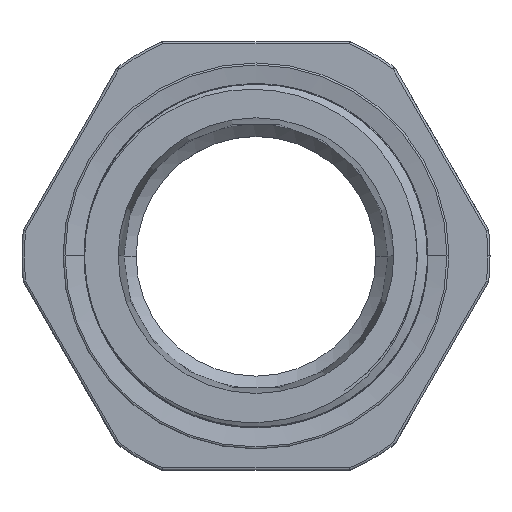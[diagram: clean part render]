
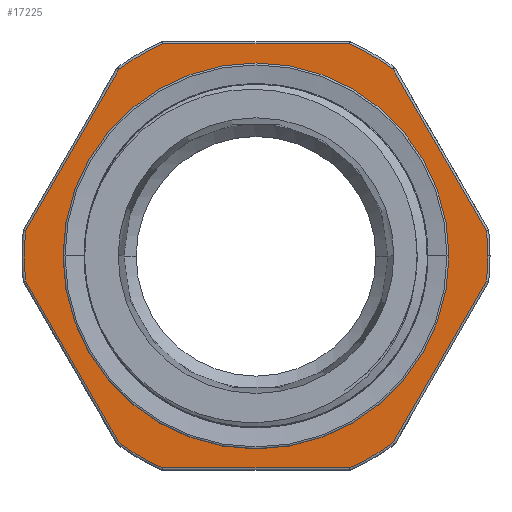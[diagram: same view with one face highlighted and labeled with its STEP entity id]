
A CAD part, top view. The second image highlights one B-rep face of the part: STEP entity #17225.
In plain terms, the highlighted planar face has unit normal (0, 0, 1).
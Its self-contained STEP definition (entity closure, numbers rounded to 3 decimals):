
#263 = CARTESIAN_POINT ( 'NONE',  ( -14.396, -19.67, 6.366 ) ) ;
#960 = VERTEX_POINT ( 'NONE', #17383 ) ;
#1081 = CARTESIAN_POINT ( 'NONE',  ( 24.231, -2.642, 6.366 ) ) ;
#1579 = AXIS2_PLACEMENT_3D ( 'NONE', #7685, #18219, #22902 ) ;
#1680 = VECTOR ( 'NONE', #10761, 1000. ) ;
#2495 = LINE ( 'NONE', #13043, #27391 ) ;
#2796 = CARTESIAN_POINT ( 'NONE',  ( -9.83, 22.296, 6.366 ) ) ;
#2921 = CIRCLE ( 'NONE', #22207, 24.372 ) ;
#3192 = CARTESIAN_POINT ( 'NONE',  ( 0.002, -0.005, 6.366 ) ) ;
#3390 = LINE ( 'NONE', #13930, #16826 ) ;
#3530 = CARTESIAN_POINT ( 'NONE',  ( 24.374, -0.005, 6.366 ) ) ;
#3587 = EDGE_CURVE ( 'NONE', #24744, #4098, #13940, .T. ) ;
#3776 = CARTESIAN_POINT ( 'NONE',  ( -24.228, -2.642, 6.366 ) ) ;
#3924 = CARTESIAN_POINT ( 'NONE',  ( 0.002, -0.005, 6.366 ) ) ;
#4098 = VERTEX_POINT ( 'NONE', #24411 ) ;
#4277 = DIRECTION ( 'NONE',  ( 1., 0., 0. ) ) ;
#4472 = CARTESIAN_POINT ( 'NONE',  ( 14.399, -19.67, 6.366 ) ) ;
#4615 = EDGE_CURVE ( 'NONE', #18489, #11795, #18845, .T. ) ;
#4734 = ORIENTED_EDGE ( 'NONE', *, *, #24794, .T. ) ;
#5092 = EDGE_CURVE ( 'NONE', #16254, #25249, #10015, .T. ) ;
#5435 = EDGE_CURVE ( 'NONE', #25249, #6548, #2921, .T. ) ;
#5997 = DIRECTION ( 'NONE',  ( 0., 0., 1. ) ) ;
#6548 = VERTEX_POINT ( 'NONE', #30361 ) ;
#6571 = CARTESIAN_POINT ( 'NONE',  ( 9.833, -22.307, 6.366 ) ) ;
#6606 = CARTESIAN_POINT ( 'NONE',  ( -24.253, 2.587, 6.366 ) ) ;
#6865 = LINE ( 'NONE', #17404, #19015 ) ;
#7685 = CARTESIAN_POINT ( 'NONE',  ( 0.002, -0.005, 6.366 ) ) ;
#8115 = CIRCLE ( 'NONE', #12546, 20.3 ) ;
#8602 = AXIS2_PLACEMENT_3D ( 'NONE', #3192, #24275, #21674 ) ;
#8607 = EDGE_CURVE ( 'NONE', #18390, #18489, #16483, .T. ) ;
#8713 = CARTESIAN_POINT ( 'NONE',  ( 0.002, -0.005, 6.366 ) ) ;
#8785 = ORIENTED_EDGE ( 'NONE', *, *, #11538, .T. ) ;
#9268 = DIRECTION ( 'NONE',  ( 1., 0., 0. ) ) ;
#9293 = DIRECTION ( 'NONE',  ( 0.5, 0.866, 0. ) ) ;
#9483 = CARTESIAN_POINT ( 'NONE',  ( 9.833, 22.296, 6.366 ) ) ;
#10015 = LINE ( 'NONE', #20534, #10673 ) ;
#10349 = AXIS2_PLACEMENT_3D ( 'NONE', #22993, #20734, #30947 ) ;
#10529 = PLANE ( 'NONE',  #28640 ) ;
#10673 = VECTOR ( 'NONE', #17435, 1000. ) ;
#10761 = DIRECTION ( 'NONE',  ( 0.5, -0.866, 0. ) ) ;
#10883 = ORIENTED_EDGE ( 'NONE', *, *, #17802, .F. ) ;
#10903 = ORIENTED_EDGE ( 'NONE', *, *, #5435, .T. ) ;
#10925 = ORIENTED_EDGE ( 'NONE', *, *, #4615, .T. ) ;
#11412 = EDGE_CURVE ( 'NONE', #11795, #29734, #20237, .T. ) ;
#11431 = CIRCLE ( 'NONE', #12557, 24.372 ) ;
#11538 = EDGE_CURVE ( 'NONE', #16313, #16254, #16957, .T. ) ;
#11795 = VERTEX_POINT ( 'NONE', #263 ) ;
#11954 = CARTESIAN_POINT ( 'NONE',  ( 0.002, -0.005, 6.366 ) ) ;
#11958 = EDGE_LOOP ( 'NONE', ( #4734, #18359, #17039, #15439, #8785, #19446, #10903, #31458, #18669, #10925, #21801, #26759, #18973 ) ) ;
#12546 = AXIS2_PLACEMENT_3D ( 'NONE', #32410, #24953, #19242 ) ;
#12557 = AXIS2_PLACEMENT_3D ( 'NONE', #25016, #14819, #4277 ) ;
#13043 = CARTESIAN_POINT ( 'NONE',  ( 14.374, 19.703, 6.366 ) ) ;
#13159 = VERTEX_POINT ( 'NONE', #6571 ) ;
#13586 = DIRECTION ( 'NONE',  ( 0., 0., 1. ) ) ;
#13796 = DIRECTION ( 'NONE',  ( 1., 0., 0. ) ) ;
#13930 = CARTESIAN_POINT ( 'NONE',  ( 9.884, -22.307, 6.366 ) ) ;
#13940 = CIRCLE ( 'NONE', #28867, 20.3 ) ;
#14479 = CARTESIAN_POINT ( 'NONE',  ( 20.301, -0.005, 6.366 ) ) ;
#14736 = CARTESIAN_POINT ( 'NONE',  ( -9.83, -22.307, 6.366 ) ) ;
#14819 = DIRECTION ( 'NONE',  ( 0., 0., 1. ) ) ;
#15439 = ORIENTED_EDGE ( 'NONE', *, *, #28041, .T. ) ;
#16254 = VERTEX_POINT ( 'NONE', #9483 ) ;
#16313 = VERTEX_POINT ( 'NONE', #20180 ) ;
#16483 = CIRCLE ( 'NONE', #1579, 24.372 ) ;
#16491 = VERTEX_POINT ( 'NONE', #4472 ) ;
#16826 = VECTOR ( 'NONE', #24467, 1000. ) ;
#16957 = CIRCLE ( 'NONE', #10349, 24.372 ) ;
#17039 = ORIENTED_EDGE ( 'NONE', *, *, #19082, .T. ) ;
#17225 = ADVANCED_FACE ( 'NONE', ( #31943, #34219 ), #10529, .T. ) ;
#17383 = CARTESIAN_POINT ( 'NONE',  ( 24.231, 2.631, 6.366 ) ) ;
#17404 = CARTESIAN_POINT ( 'NONE',  ( 24.256, -2.598, 6.366 ) ) ;
#17435 = DIRECTION ( 'NONE',  ( -1., 0., 0. ) ) ;
#17646 = CARTESIAN_POINT ( 'NONE',  ( 0.002, -0.005, 6.366 ) ) ;
#17802 = EDGE_CURVE ( 'NONE', #4098, #24744, #8115, .T. ) ;
#17848 = VERTEX_POINT ( 'NONE', #3530 ) ;
#18219 = DIRECTION ( 'NONE',  ( 0., 0., 1. ) ) ;
#18329 = CARTESIAN_POINT ( 'NONE',  ( -14.371, -19.714, 6.366 ) ) ;
#18359 = ORIENTED_EDGE ( 'NONE', *, *, #28622, .T. ) ;
#18390 = VERTEX_POINT ( 'NONE', #30386 ) ;
#18489 = VERTEX_POINT ( 'NONE', #3776 ) ;
#18669 = ORIENTED_EDGE ( 'NONE', *, *, #8607, .T. ) ;
#18845 = LINE ( 'NONE', #18329, #1680 ) ;
#18973 = ORIENTED_EDGE ( 'NONE', *, *, #27046, .T. ) ;
#19015 = VECTOR ( 'NONE', #9293, 1000. ) ;
#19082 = EDGE_CURVE ( 'NONE', #17848, #960, #26200, .T. ) ;
#19242 = DIRECTION ( 'NONE',  ( 1., 0., 0. ) ) ;
#19446 = ORIENTED_EDGE ( 'NONE', *, *, #5092, .T. ) ;
#20058 = DIRECTION ( 'NONE',  ( 1., 0., 0. ) ) ;
#20180 = CARTESIAN_POINT ( 'NONE',  ( 14.399, 19.66, 6.366 ) ) ;
#20230 = VERTEX_POINT ( 'NONE', #1081 ) ;
#20237 = CIRCLE ( 'NONE', #26864, 24.372 ) ;
#20534 = CARTESIAN_POINT ( 'NONE',  ( -9.881, 22.296, 6.366 ) ) ;
#20734 = DIRECTION ( 'NONE',  ( 0., 0., 1. ) ) ;
#21674 = DIRECTION ( 'NONE',  ( 1., 0., 0. ) ) ;
#21801 = ORIENTED_EDGE ( 'NONE', *, *, #11412, .T. ) ;
#21935 = DIRECTION ( 'NONE',  ( -0.5, 0.866, 0. ) ) ;
#22207 = AXIS2_PLACEMENT_3D ( 'NONE', #3924, #32464, #13796 ) ;
#22902 = DIRECTION ( 'NONE',  ( 1., 0., 0. ) ) ;
#22993 = CARTESIAN_POINT ( 'NONE',  ( 0.002, -0.005, 6.366 ) ) ;
#24275 = DIRECTION ( 'NONE',  ( 0., 0., 1. ) ) ;
#24411 = CARTESIAN_POINT ( 'NONE',  ( -20.298, -0.005, 6.366 ) ) ;
#24467 = DIRECTION ( 'NONE',  ( 1., 0., 0. ) ) ;
#24744 = VERTEX_POINT ( 'NONE', #14479 ) ;
#24794 = EDGE_CURVE ( 'NONE', #16491, #20230, #6865, .T. ) ;
#24935 = LINE ( 'NONE', #6606, #27467 ) ;
#24953 = DIRECTION ( 'NONE',  ( 0., 0., 1. ) ) ;
#24961 = EDGE_CURVE ( 'NONE', #29734, #13159, #3390, .T. ) ;
#25016 = CARTESIAN_POINT ( 'NONE',  ( 0.002, -0.005, 6.366 ) ) ;
#25249 = VERTEX_POINT ( 'NONE', #2796 ) ;
#26200 = CIRCLE ( 'NONE', #33405, 24.372 ) ;
#26759 = ORIENTED_EDGE ( 'NONE', *, *, #24961, .T. ) ;
#26864 = AXIS2_PLACEMENT_3D ( 'NONE', #11954, #32696, #33045 ) ;
#27046 = EDGE_CURVE ( 'NONE', #13159, #16491, #31248, .T. ) ;
#27391 = VECTOR ( 'NONE', #21935, 1000. ) ;
#27467 = VECTOR ( 'NONE', #27688, 1000. ) ;
#27688 = DIRECTION ( 'NONE',  ( -0.5, -0.866, 0. ) ) ;
#28041 = EDGE_CURVE ( 'NONE', #960, #16313, #2495, .T. ) ;
#28622 = EDGE_CURVE ( 'NONE', #20230, #17848, #11431, .T. ) ;
#28640 = AXIS2_PLACEMENT_3D ( 'NONE', #32965, #5997, #9268 ) ;
#28867 = AXIS2_PLACEMENT_3D ( 'NONE', #8713, #13586, #29815 ) ;
#29699 = EDGE_CURVE ( 'NONE', #6548, #18390, #24935, .T. ) ;
#29734 = VERTEX_POINT ( 'NONE', #14736 ) ;
#29815 = DIRECTION ( 'NONE',  ( 1., 0., 0. ) ) ;
#30361 = CARTESIAN_POINT ( 'NONE',  ( -14.396, 19.66, 6.366 ) ) ;
#30386 = CARTESIAN_POINT ( 'NONE',  ( -24.228, 2.631, 6.366 ) ) ;
#30919 = EDGE_LOOP ( 'NONE', ( #10883, #31824 ) ) ;
#30947 = DIRECTION ( 'NONE',  ( 1., 0., 0. ) ) ;
#31131 = DIRECTION ( 'NONE',  ( 0., 0., 1. ) ) ;
#31248 = CIRCLE ( 'NONE', #8602, 24.372 ) ;
#31458 = ORIENTED_EDGE ( 'NONE', *, *, #29699, .T. ) ;
#31824 = ORIENTED_EDGE ( 'NONE', *, *, #3587, .F. ) ;
#31943 = FACE_BOUND ( 'NONE', #30919, .T. ) ;
#32410 = CARTESIAN_POINT ( 'NONE',  ( 0.002, -0.005, 6.366 ) ) ;
#32464 = DIRECTION ( 'NONE',  ( 0., 0., 1. ) ) ;
#32696 = DIRECTION ( 'NONE',  ( 0., 0., 1. ) ) ;
#32965 = CARTESIAN_POINT ( 'NONE',  ( 0.002, -0.005, 6.366 ) ) ;
#33045 = DIRECTION ( 'NONE',  ( 1., 0., 0. ) ) ;
#33405 = AXIS2_PLACEMENT_3D ( 'NONE', #17646, #31131, #20058 ) ;
#34219 = FACE_OUTER_BOUND ( 'NONE', #11958, .T. ) ;
